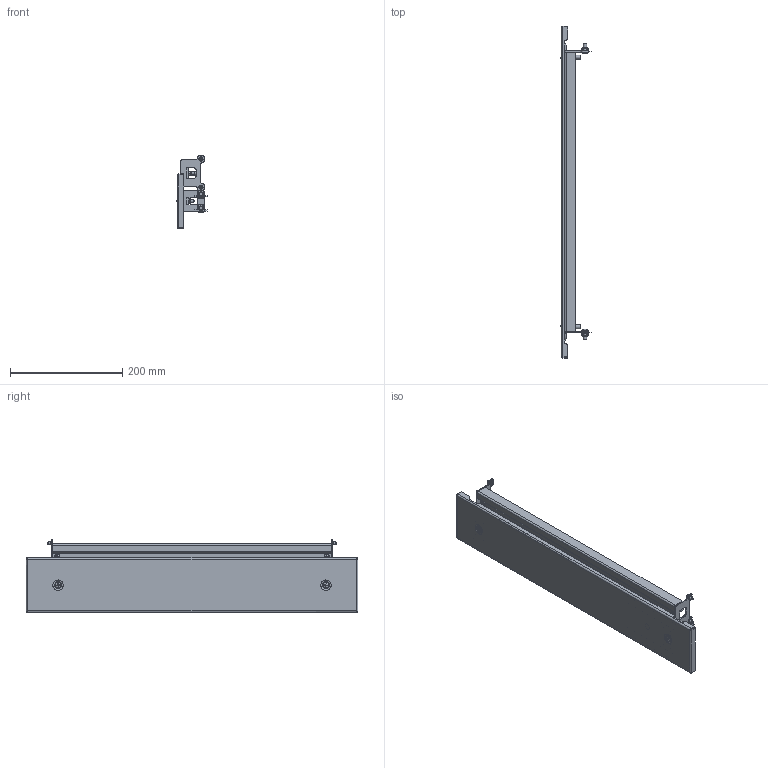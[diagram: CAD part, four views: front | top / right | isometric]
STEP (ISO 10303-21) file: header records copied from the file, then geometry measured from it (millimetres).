
FILE_DESCRIPTION(('STEP AP203'), '1');
FILE_NAME('3630 Ñåêöèîííàÿ ïàíåëü íà âèíòàõ (äëÿ çàêðûòèÿ ñåêöèè) ÑÁ', '', ('UNSPECIFIED'), ('UNSPECIFIED'), 'C3D Converter', 'C3D Toolkit', '');
FILE_SCHEMA(('CONFIG_CONTROL_DESIGN'));
Length unit declared in the file: millimetre
Products named in the file (19): 3630.10.60; 3631.10.60; 3632.10.60; 3600.60; 3601.60; 3624; 3625; 203-0655.61;  202-1103.15-00530; 3604-01; 3654-01; 2957
Assembly tree (33 placements, depth 4):
  3630.10.60
    3631.10.60
      3632.10.60
      (unnamed)
    3600.60
      3601.60
      3624  x2
        3625
        (unnamed)
      (unnamed)  x2
      (unnamed)  x2
      (unnamed)  x4
    203-0655.61  x2
     202-1103.15-00530  x2
    3604-01  x2
      3654-01
      (unnamed)
    (unnamed)  x4
    2957  x4
Bounding box: 53.78 x 591 x 129.7 mm (x, y, z)
Volume: 307134.9 mm3; surface area: 324468.6 mm2
Topology: 40 solids, 40 shells, 1400 faces, 3518 edges, 2222 vertices
Faces by surface type: plane 803, cylinder 449, cone 49, sphere 38, bspline 32, torus 29
Full cylindrical faces by diameter (mm): 4 x2, 4.134 x4, 4.917 x4, 5 x8, 5.2 x4, 5.3 x2, 5.5 x4, 5.6 x4, 5.8 x2, 6 x5, 6.38 x2, 6.4 x2, 6.5 x2, 6.8 x2, 7 x4, 7.5 x8, 7.74 x2, 8.7 x2, 9.2 x4, 9.5 x2, 10 x2, 11.3 x4, 11.5 x2
Entity records: 24172 total; most frequent: CARTESIAN_POINT 7259, DIRECTION 3051, ORIENTED_EDGE 2732, EDGE_CURVE 1366, AXIS2_PLACEMENT_3D 1115, VERTEX_POINT 879, LINE 821, VECTOR 821
